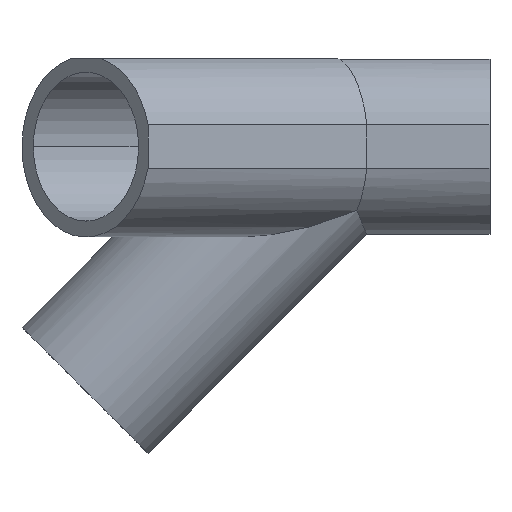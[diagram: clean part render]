
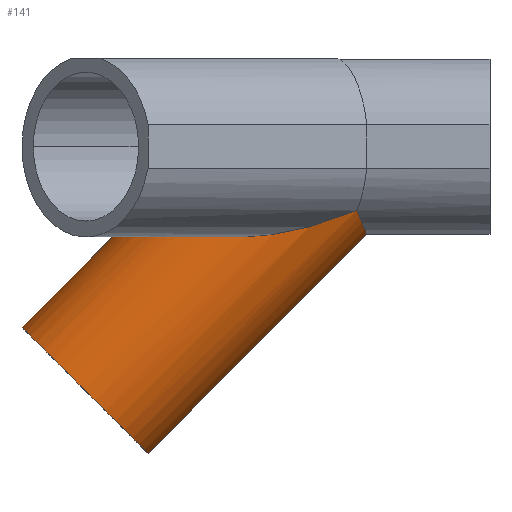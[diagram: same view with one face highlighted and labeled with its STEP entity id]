
A CAD part, left-side view. The second image highlights one B-rep face of the part: STEP entity #141.
In plain terms, the highlighted cylindrical face has radius 17 mm (diameter 34 mm), a partial arc.
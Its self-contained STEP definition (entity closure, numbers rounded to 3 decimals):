
#5 = CARTESIAN_POINT ( 'NONE',  ( 16.5, 48.856, -43.068 ) ) ;
#26 = DIRECTION ( 'NONE',  ( 0., -0.707, 0.707 ) ) ;
#49 = CARTESIAN_POINT ( 'NONE',  ( -0.766, 41., -16.983 ) ) ;
#51 = LINE ( 'NONE', #889, #850 ) ;
#59 =( BOUNDED_CURVE ( )  B_SPLINE_CURVE ( 3, ( #49, #583, #885, #197 ),
 .UNSPECIFIED., .F., .T. ) 
 B_SPLINE_CURVE_WITH_KNOTS ( ( 4, 4 ),
 ( 6.238, 6.328 ),
 .UNSPECIFIED. ) 
 CURVE ( )  GEOMETRIC_REPRESENTATION_ITEM ( )  RATIONAL_B_SPLINE_CURVE ( ( 1., 0.999, 0.999, 1. ) ) 
 REPRESENTATION_ITEM ( '' )  );
#77 =( BOUNDED_CURVE ( )  B_SPLINE_CURVE ( 3, ( #691, #601, #307, #605 ),
 .UNSPECIFIED., .F., .F. ) 
 B_SPLINE_CURVE_WITH_KNOTS ( ( 4, 4 ),
 ( 3.385, 3.927 ),
 .UNSPECIFIED. ) 
 CURVE ( )  GEOMETRIC_REPRESENTATION_ITEM ( )  RATIONAL_B_SPLINE_CURVE ( ( 1., 0.976, 0.976, 1. ) ) 
 REPRESENTATION_ITEM ( '' )  );
#91 = CARTESIAN_POINT ( 'NONE',  ( -19.062, 26.104, -19.062 ) ) ;
#95 = CARTESIAN_POINT ( 'NONE',  ( 16.421, 10.622, -4.4 ) ) ;
#99 = ORIENTED_EDGE ( 'NONE', *, *, #118, .T. ) ;
#109 = CARTESIAN_POINT ( 'NONE',  ( 16.475, 10.347, -4.414 ) ) ;
#118 = EDGE_CURVE ( 'NONE', #771, #261, #947, .T. ) ;
#141 = ADVANCED_FACE ( 'NONE', ( #476 ), #853, .T. ) ;
#148 = DIRECTION ( 'NONE',  ( 0., -0.707, 0.707 ) ) ;
#149 = VERTEX_POINT ( 'NONE', #864 ) ;
#184 = CARTESIAN_POINT ( 'NONE',  ( 0.766, 41., -16.983 ) ) ;
#197 = CARTESIAN_POINT ( 'NONE',  ( 0.766, 41., -16.983 ) ) ;
#198 = EDGE_CURVE ( 'NONE', #706, #732, #669, .T. ) ;
#229 = VERTEX_POINT ( 'NONE', #950 ) ;
#232 = CARTESIAN_POINT ( 'NONE',  ( 8.442, 40.165, -16.637 ) ) ;
#236 = DIRECTION ( 'NONE',  ( 0., 0.707, 0.707 ) ) ;
#238 = ORIENTED_EDGE ( 'NONE', *, *, #779, .T. ) ;
#261 = VERTEX_POINT ( 'NONE', #591 ) ;
#262 = EDGE_CURVE ( 'NONE', #732, #771, #59, .T. ) ;
#274 = VECTOR ( 'NONE', #148, 1000. ) ;
#304 = VERTEX_POINT ( 'NONE', #828 ) ;
#307 = CARTESIAN_POINT ( 'NONE',  ( -9.821, -5.89, -14.221 ) ) ;
#317 = ORIENTED_EDGE ( 'NONE', *, *, #371, .T. ) ;
#326 = AXIS2_PLACEMENT_3D ( 'NONE', #766, #931, #236 ) ;
#327 = CARTESIAN_POINT ( 'NONE',  ( 16.448, 10.485, -4.407 ) ) ;
#331 = DIRECTION ( 'NONE',  ( 0., -0.707, -0.707 ) ) ;
#367 =( BOUNDED_CURVE ( )  B_SPLINE_CURVE ( 3, ( #934, #109, #327, #645 ),
 .UNSPECIFIED., .F., .F. ) 
 B_SPLINE_CURVE_WITH_KNOTS ( ( 4, 4 ),
 ( 2.176, 2.195 ),
 .UNSPECIFIED. ) 
 CURVE ( )  GEOMETRIC_REPRESENTATION_ITEM ( )  RATIONAL_B_SPLINE_CURVE ( ( 1., 1., 1., 1. ) ) 
 REPRESENTATION_ITEM ( '' )  );
#368 = DIRECTION ( 'NONE',  ( 0., 0.707, -0.707 ) ) ;
#371 = EDGE_CURVE ( 'NONE', #599, #304, #77, .T. ) ;
#386 =( BOUNDED_CURVE ( )  B_SPLINE_CURVE ( 3, ( #791, #421, #91, #639 ),
 .UNSPECIFIED., .F., .T. ) 
 B_SPLINE_CURVE_WITH_KNOTS ( ( 4, 4 ),
 ( 1.741, 3.312 ),
 .UNSPECIFIED. ) 
 CURVE ( )  GEOMETRIC_REPRESENTATION_ITEM ( )  RATIONAL_B_SPLINE_CURVE ( ( 1., 0.805, 0.805, 1. ) ) 
 REPRESENTATION_ITEM ( '' )  );
#390 = EDGE_CURVE ( 'NONE', #229, #149, #570, .T. ) ;
#401 = CARTESIAN_POINT ( 'NONE',  ( 14.432, 28.542, -11.823 ) ) ;
#418 = ORIENTED_EDGE ( 'NONE', *, *, #262, .T. ) ;
#421 = CARTESIAN_POINT ( 'NONE',  ( -19.062, 12.021, -19.062 ) ) ;
#438 = ORIENTED_EDGE ( 'NONE', *, *, #198, .T. ) ;
#455 = CARTESIAN_POINT ( 'NONE',  ( -4.093, -6.835, -16.5 ) ) ;
#471 = CARTESIAN_POINT ( 'NONE',  ( 0.766, 41., -16.983 ) ) ;
#476 = FACE_OUTER_BOUND ( 'NONE', #636, .T. ) ;
#496 = CARTESIAN_POINT ( 'NONE',  ( -0.766, 41., -16.983 ) ) ;
#530 = EDGE_CURVE ( 'NONE', #599, #149, #51, .T. ) ;
#531 = LINE ( 'NONE', #5, #274 ) ;
#570 = CIRCLE ( 'NONE', #326, 17. ) ;
#571 = CARTESIAN_POINT ( 'NONE',  ( -0.766, 41., -16.983 ) ) ;
#575 = CARTESIAN_POINT ( 'NONE',  ( -12.021, 29.021, -12.021 ) ) ;
#583 = CARTESIAN_POINT ( 'NONE',  ( -0.255, 41., -16.95 ) ) ;
#591 = CARTESIAN_POINT ( 'NONE',  ( 16.421, 10.622, -4.4 ) ) ;
#599 = VERTEX_POINT ( 'NONE', #455 ) ;
#601 = CARTESIAN_POINT ( 'NONE',  ( -7.112, -6.524, -15.751 ) ) ;
#605 = CARTESIAN_POINT ( 'NONE',  ( -12.021, -4.979, -12.021 ) ) ;
#636 = EDGE_LOOP ( 'NONE', ( #730, #849, #789, #907, #317, #238, #438, #418, #99 ) ) ;
#639 = CARTESIAN_POINT ( 'NONE',  ( -12.021, 29.021, -12.021 ) ) ;
#645 = CARTESIAN_POINT ( 'NONE',  ( 16.421, 10.622, -4.4 ) ) ;
#669 =( BOUNDED_CURVE ( )  B_SPLINE_CURVE ( 3, ( #575, #808, #723, #496 ),
 .UNSPECIFIED., .F., .F. ) 
 B_SPLINE_CURVE_WITH_KNOTS ( ( 4, 4 ),
 ( 5.498, 6.238 ),
 .UNSPECIFIED. ) 
 CURVE ( )  GEOMETRIC_REPRESENTATION_ITEM ( )  RATIONAL_B_SPLINE_CURVE ( ( 1., 0.955, 0.955, 1. ) ) 
 REPRESENTATION_ITEM ( '' )  );
#691 = CARTESIAN_POINT ( 'NONE',  ( -4.093, -6.835, -16.5 ) ) ;
#706 = VERTEX_POINT ( 'NONE', #836 ) ;
#711 = EDGE_CURVE ( 'NONE', #229, #861, #531, .T. ) ;
#723 = CARTESIAN_POINT ( 'NONE',  ( -5.055, 40.533, -16.789 ) ) ;
#730 = ORIENTED_EDGE ( 'NONE', *, *, #773, .F. ) ;
#732 = VERTEX_POINT ( 'NONE', #571 ) ;
#766 = CARTESIAN_POINT ( 'NONE',  ( 0., 45.962, -45.962 ) ) ;
#771 = VERTEX_POINT ( 'NONE', #184 ) ;
#773 = EDGE_CURVE ( 'NONE', #861, #261, #367, .T. ) ;
#779 = EDGE_CURVE ( 'NONE', #304, #706, #386, .T. ) ;
#789 = ORIENTED_EDGE ( 'NONE', *, *, #390, .T. ) ;
#791 = CARTESIAN_POINT ( 'NONE',  ( -12.021, -4.979, -12.021 ) ) ;
#808 = CARTESIAN_POINT ( 'NONE',  ( -8.984, 36.351, -15.057 ) ) ;
#828 = CARTESIAN_POINT ( 'NONE',  ( -12.021, -4.979, -12.021 ) ) ;
#836 = CARTESIAN_POINT ( 'NONE',  ( -12.021, 29.021, -12.021 ) ) ;
#849 = ORIENTED_EDGE ( 'NONE', *, *, #711, .F. ) ;
#850 = VECTOR ( 'NONE', #368, 1000. ) ;
#853 = CYLINDRICAL_SURFACE ( 'NONE', #884, 17. ) ;
#861 = VERTEX_POINT ( 'NONE', #895 ) ;
#864 = CARTESIAN_POINT ( 'NONE',  ( -4.093, 34.295, -57.629 ) ) ;
#884 = AXIS2_PLACEMENT_3D ( 'NONE', #942, #26, #331 ) ;
#885 = CARTESIAN_POINT ( 'NONE',  ( 0.255, 41., -16.95 ) ) ;
#889 = CARTESIAN_POINT ( 'NONE',  ( -4.093, -35.168, 11.834 ) ) ;
#895 = CARTESIAN_POINT ( 'NONE',  ( 16.5, 10.209, -4.421 ) ) ;
#907 = ORIENTED_EDGE ( 'NONE', *, *, #530, .F. ) ;
#931 = DIRECTION ( 'NONE',  ( 0., -0.707, 0.707 ) ) ;
#934 = CARTESIAN_POINT ( 'NONE',  ( 16.5, 10.209, -4.421 ) ) ;
#942 = CARTESIAN_POINT ( 'NONE',  ( 0., 45.962, -45.962 ) ) ;
#947 =( BOUNDED_CURVE ( )  B_SPLINE_CURVE ( 3, ( #471, #232, #401, #95 ),
 .UNSPECIFIED., .F., .T. ) 
 B_SPLINE_CURVE_WITH_KNOTS ( ( 4, 4 ),
 ( 0.045, 1.309 ),
 .UNSPECIFIED. ) 
 CURVE ( )  GEOMETRIC_REPRESENTATION_ITEM ( )  RATIONAL_B_SPLINE_CURVE ( ( 1., 0.871, 0.871, 1. ) ) 
 REPRESENTATION_ITEM ( '' )  );
#950 = CARTESIAN_POINT ( 'NONE',  ( 16.5, 48.856, -43.068 ) ) ;
